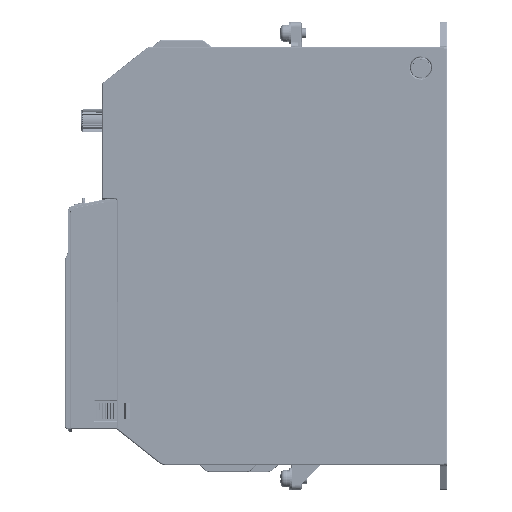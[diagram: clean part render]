
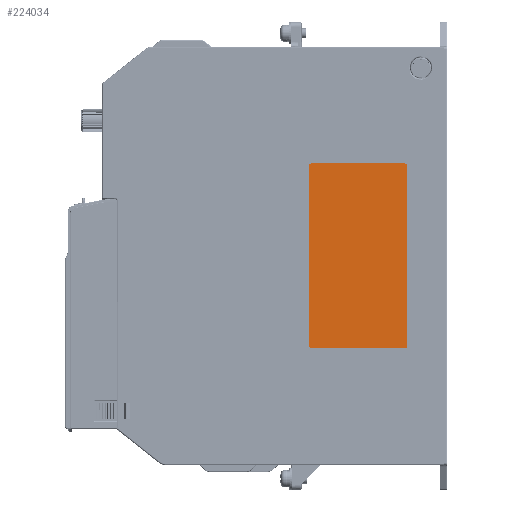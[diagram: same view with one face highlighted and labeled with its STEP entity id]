
A CAD part, top view. The second image highlights one B-rep face of the part: STEP entity #224034.
In plain terms, the highlighted planar face has unit normal (0, 0, -1).
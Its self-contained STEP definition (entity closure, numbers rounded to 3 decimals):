
#116055=CARTESIAN_POINT('',(-23.5,36.5,59.5));
#116056=DIRECTION('',(0.,0.,1.));
#116057=DIRECTION('',(0.,1.,0.));
#116058=AXIS2_PLACEMENT_3D('',#116055,#116056,#116057);
#116060=CARTESIAN_POINT('',(-23.5,-36.5,59.5));
#116061=DIRECTION('',(0.,0.,1.));
#116062=DIRECTION('',(-1.,0.,0.));
#116063=AXIS2_PLACEMENT_3D('',#116060,#116061,#116062);
#116065=CARTESIAN_POINT('',(14.5,-36.5,59.5));
#116066=DIRECTION('',(0.,0.,1.));
#116067=DIRECTION('',(0.,-1.,0.));
#116068=AXIS2_PLACEMENT_3D('',#116065,#116066,#116067);
#116070=DIRECTION('',(0.,1.,0.));
#116071=VECTOR('',#116070,73.);
#116072=CARTESIAN_POINT('',(15.5,-36.5,59.5));
#116073=LINE('',#116072,#116071);
#116074=CARTESIAN_POINT('',(14.5,36.5,59.5));
#116075=DIRECTION('',(0.,0.,1.));
#116076=DIRECTION('',(1.,0.,0.));
#116077=AXIS2_PLACEMENT_3D('',#116074,#116075,#116076);
#116087=DIRECTION('',(-1.,0.,0.));
#116088=VECTOR('',#116087,38.);
#116089=CARTESIAN_POINT('',(14.5,37.5,59.5));
#116090=LINE('',#116089,#116088);
#116099=DIRECTION('',(0.,1.,0.));
#116100=VECTOR('',#116099,73.);
#116101=CARTESIAN_POINT('',(-24.5,-36.5,59.5));
#116102=LINE('',#116101,#116100);
#116115=DIRECTION('',(-1.,0.,0.));
#116116=VECTOR('',#116115,38.);
#116117=CARTESIAN_POINT('',(14.5,-37.5,59.5));
#116118=LINE('',#116117,#116116);
#147479=CARTESIAN_POINT('',(15.5,36.5,59.5));
#147480=VERTEX_POINT('',#147479);
#147481=CARTESIAN_POINT('',(15.5,-36.5,59.5));
#147482=VERTEX_POINT('',#147481);
#147483=CARTESIAN_POINT('',(14.5,37.5,59.5));
#147484=VERTEX_POINT('',#147483);
#147485=CARTESIAN_POINT('',(-23.5,37.5,59.5));
#147486=CARTESIAN_POINT('',(-24.5,36.5,59.5));
#147487=VERTEX_POINT('',#147485);
#147488=VERTEX_POINT('',#147486);
#147489=CARTESIAN_POINT('',(14.5,-37.5,59.5));
#147490=VERTEX_POINT('',#147489);
#147491=CARTESIAN_POINT('',(-23.5,-37.5,59.5));
#147492=VERTEX_POINT('',#147491);
#147493=CARTESIAN_POINT('',(-24.5,-36.5,59.5));
#147494=VERTEX_POINT('',#147493);
#224013=CARTESIAN_POINT('',(-4.5,0.,59.5));
#224014=DIRECTION('',(0.,0.,1.));
#224015=DIRECTION('',(1.,0.,0.));
#224016=AXIS2_PLACEMENT_3D('',#224013,#224014,#224015);
#224017=PLANE('',#224016);
#224019=ORIENTED_EDGE('',*,*,#224018,.T.);
#224021=ORIENTED_EDGE('',*,*,#224020,.F.);
#224023=ORIENTED_EDGE('',*,*,#224022,.T.);
#224025=ORIENTED_EDGE('',*,*,#224024,.F.);
#224027=ORIENTED_EDGE('',*,*,#224026,.T.);
#224028=ORIENTED_EDGE('',*,*,#223991,.T.);
#224029=ORIENTED_EDGE('',*,*,#224004,.T.);
#224031=ORIENTED_EDGE('',*,*,#224030,.T.);
#224032=EDGE_LOOP('',(#224019,#224021,#224023,#224025,#224027,#224028,#224029,
#224031));
#224033=FACE_OUTER_BOUND('',#224032,.F.);
#224034=ADVANCED_FACE('',(#224033),#224017,.F.);
#116059=CIRCLE('',#116058,1.);
#116064=CIRCLE('',#116063,1.);
#116069=CIRCLE('',#116068,1.);
#116078=CIRCLE('',#116077,1.);
#223991=EDGE_CURVE('',#147482,#147480,#116073,.T.);
#224004=EDGE_CURVE('',#147480,#147484,#116078,.T.);
#224018=EDGE_CURVE('',#147487,#147488,#116059,.T.);
#224020=EDGE_CURVE('',#147494,#147488,#116102,.T.);
#224022=EDGE_CURVE('',#147494,#147492,#116064,.T.);
#224024=EDGE_CURVE('',#147490,#147492,#116118,.T.);
#224026=EDGE_CURVE('',#147490,#147482,#116069,.T.);
#224030=EDGE_CURVE('',#147484,#147487,#116090,.T.);
